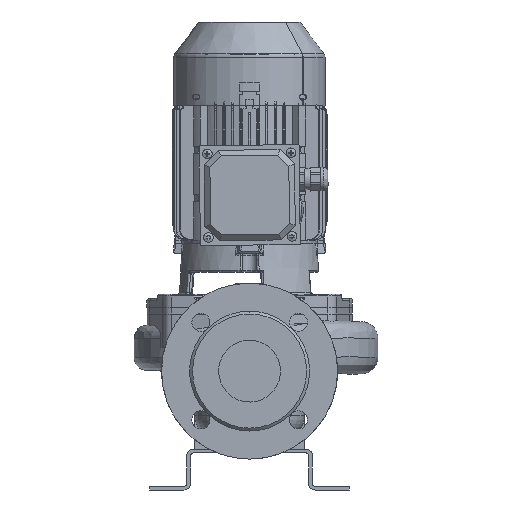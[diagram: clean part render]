
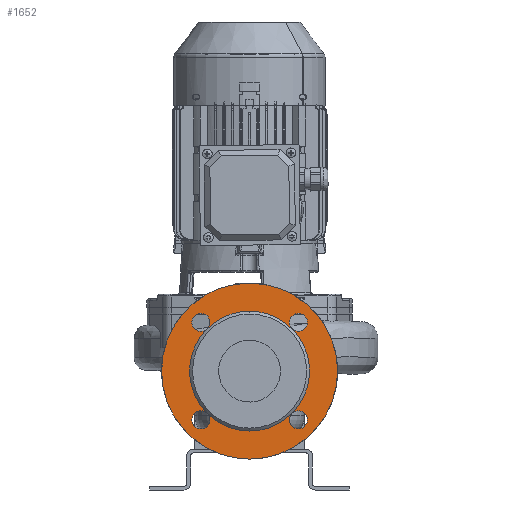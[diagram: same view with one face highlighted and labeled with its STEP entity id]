
A CAD part, front view. The second image highlights one B-rep face of the part: STEP entity #1652.
In plain terms, the highlighted planar face has unit normal (0, -1, 0) as drawn and (0, 1, 0) by its records, which use the part's own axes.
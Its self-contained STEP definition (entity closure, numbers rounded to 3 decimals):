
#1652=ADVANCED_FACE('',(#3272,#3273),#3274,.T.);
#1678=EDGE_CURVE('',#3314,#3315,#3316,.T.);
#1680=EDGE_CURVE('',#3318,#3314,#3319,.T.);
#1682=EDGE_CURVE('',#3321,#3318,#3322,.T.);
#1686=EDGE_CURVE('',#3328,#3329,#3330,.T.);
#1690=EDGE_CURVE('',#3336,#3337,#3338,.T.);
#1694=EDGE_CURVE('',#3344,#3345,#3346,.T.);
#1698=EDGE_CURVE('',#3352,#3353,#3354,.T.);
#1700=EDGE_CURVE('',#3356,#3357,#3358,.T.);
#1892=EDGE_CURVE('',#3357,#3356,#3653,.T.);
#1902=EDGE_CURVE('',#3318,#3352,#3663,.T.);
#1904=EDGE_CURVE('',#3353,#3318,#3665,.T.);
#1906=EDGE_CURVE('',#3314,#3344,#3667,.T.);
#1908=EDGE_CURVE('',#3345,#3314,#3669,.T.);
#1910=EDGE_CURVE('',#3671,#3336,#3672,.T.);
#1912=EDGE_CURVE('',#3337,#3671,#3674,.T.);
#1914=EDGE_CURVE('',#3676,#3328,#3677,.T.);
#1916=EDGE_CURVE('',#3329,#3676,#3679,.T.);
#1918=EDGE_CURVE('',#3315,#3671,#3681,.T.);
#1920=EDGE_CURVE('',#3671,#3676,#3683,.T.);
#1922=EDGE_CURVE('',#3676,#3321,#3685,.T.);
#3272=FACE_OUTER_BOUND('',#9003,.T.);
#3273=FACE_BOUND('',#9004,.T.);
#3274=PLANE('',#9005);
#3314=VERTEX_POINT('',#9643);
#3315=VERTEX_POINT('',#9644);
#3316=CIRCLE('',#9645,63.0);
#3318=VERTEX_POINT('',#9648);
#3319=CIRCLE('',#9649,63.0);
#3321=VERTEX_POINT('',#9652);
#3322=CIRCLE('',#9653,63.0);
#3328=VERTEX_POINT('',#9661);
#3329=VERTEX_POINT('',#9662);
#3330=CIRCLE('',#9663,9.5);
#3336=VERTEX_POINT('',#9671);
#3337=VERTEX_POINT('',#9672);
#3338=CIRCLE('',#9673,9.5);
#3344=VERTEX_POINT('',#9681);
#3345=VERTEX_POINT('',#9682);
#3346=CIRCLE('',#9683,9.5);
#3352=VERTEX_POINT('',#9691);
#3353=VERTEX_POINT('',#9692);
#3354=CIRCLE('',#9693,9.5);
#3356=VERTEX_POINT('',#9696);
#3357=VERTEX_POINT('',#9697);
#3358=CIRCLE('',#9698,92.5);
#3653=CIRCLE('',#10165,92.5);
#3663=CIRCLE('',#10180,9.5);
#3665=CIRCLE('',#10183,9.5);
#3667=CIRCLE('',#10186,9.5);
#3669=CIRCLE('',#10189,9.5);
#3671=VERTEX_POINT('',#10192);
#3672=CIRCLE('',#10193,9.5);
#3674=CIRCLE('',#10196,9.5);
#3676=VERTEX_POINT('',#10199);
#3677=CIRCLE('',#10200,9.5);
#3679=CIRCLE('',#10203,9.5);
#3681=CIRCLE('',#10206,63.0);
#3683=CIRCLE('',#10209,63.0);
#3685=CIRCLE('',#10212,63.0);
#9003=EDGE_LOOP('',(#18054,#18055));
#9004=EDGE_LOOP('',(#18056,#18057,#18058,#18059,#18060,#18061,#18062,#18063,#18064,#18065,#18066,#18067,#18068,#18069,#18070,#18071,#18072,#18073));
#9005=AXIS2_PLACEMENT_3D('',#18074,#18075,#18076);
#9643=CARTESIAN_POINT('',(44.548,165.,20.048));
#9644=CARTESIAN_POINT('',(0.,165.0,38.5));
#9645=AXIS2_PLACEMENT_3D('',#18166,#18167,#18168);
#9648=CARTESIAN_POINT('',(44.548,165.0,-69.048));
#9649=AXIS2_PLACEMENT_3D('',#18169,#18170,#18171);
#9652=CARTESIAN_POINT('',(0.,165.0,-87.5));
#9653=AXIS2_PLACEMENT_3D('',#18172,#18173,#18174);
#9661=CARTESIAN_POINT('',(-56.624,165.0,-67.921));
#9662=CARTESIAN_POINT('',(-45.906,165.0,-83.609));
#9663=AXIS2_PLACEMENT_3D('',#18178,#18179,#18180);
#9671=CARTESIAN_POINT('',(-43.421,165.,32.124));
#9672=CARTESIAN_POINT('',(-59.109,165.,21.406));
#9673=AXIS2_PLACEMENT_3D('',#18184,#18185,#18186);
#9681=CARTESIAN_POINT('',(56.624,165.,18.921));
#9682=CARTESIAN_POINT('',(45.906,165.,34.609));
#9683=AXIS2_PLACEMENT_3D('',#18190,#18191,#18192);
#9691=CARTESIAN_POINT('',(43.421,165.0,-81.124));
#9692=CARTESIAN_POINT('',(59.109,165.0,-70.406));
#9693=AXIS2_PLACEMENT_3D('',#18196,#18197,#18198);
#9696=CARTESIAN_POINT('',(0.,165.0,-117.0));
#9697=CARTESIAN_POINT('',(0.,165.0,68.0));
#9698=AXIS2_PLACEMENT_3D('',#18199,#18200,#18201);
#10165=AXIS2_PLACEMENT_3D('',#18447,#18448,#18449);
#10180=AXIS2_PLACEMENT_3D('',#18462,#18463,#18464);
#10183=AXIS2_PLACEMENT_3D('',#18465,#18466,#18467);
#10186=AXIS2_PLACEMENT_3D('',#18468,#18469,#18470);
#10189=AXIS2_PLACEMENT_3D('',#18471,#18472,#18473);
#10192=CARTESIAN_POINT('',(-44.548,165.,20.048));
#10193=AXIS2_PLACEMENT_3D('',#18474,#18475,#18476);
#10196=AXIS2_PLACEMENT_3D('',#18477,#18478,#18479);
#10199=CARTESIAN_POINT('',(-44.548,165.0,-69.048));
#10200=AXIS2_PLACEMENT_3D('',#18480,#18481,#18482);
#10203=AXIS2_PLACEMENT_3D('',#18483,#18484,#18485);
#10206=AXIS2_PLACEMENT_3D('',#18486,#18487,#18488);
#10209=AXIS2_PLACEMENT_3D('',#18489,#18490,#18491);
#10212=AXIS2_PLACEMENT_3D('',#18492,#18493,#18494);
#18054=ORIENTED_EDGE('',*,*,#1892,.F.);
#18055=ORIENTED_EDGE('',*,*,#1700,.F.);
#18056=ORIENTED_EDGE('',*,*,#1678,.T.);
#18057=ORIENTED_EDGE('',*,*,#1918,.T.);
#18058=ORIENTED_EDGE('',*,*,#1910,.T.);
#18059=ORIENTED_EDGE('',*,*,#1690,.T.);
#18060=ORIENTED_EDGE('',*,*,#1912,.T.);
#18061=ORIENTED_EDGE('',*,*,#1920,.T.);
#18062=ORIENTED_EDGE('',*,*,#1914,.T.);
#18063=ORIENTED_EDGE('',*,*,#1686,.T.);
#18064=ORIENTED_EDGE('',*,*,#1916,.T.);
#18065=ORIENTED_EDGE('',*,*,#1922,.T.);
#18066=ORIENTED_EDGE('',*,*,#1682,.T.);
#18067=ORIENTED_EDGE('',*,*,#1902,.T.);
#18068=ORIENTED_EDGE('',*,*,#1698,.T.);
#18069=ORIENTED_EDGE('',*,*,#1904,.T.);
#18070=ORIENTED_EDGE('',*,*,#1680,.T.);
#18071=ORIENTED_EDGE('',*,*,#1906,.T.);
#18072=ORIENTED_EDGE('',*,*,#1694,.T.);
#18073=ORIENTED_EDGE('',*,*,#1908,.T.);
#18074=CARTESIAN_POINT('',(0.,165.0,-102.25));
#18075=DIRECTION('',(0.0,1.0,0.0));
#18076=DIRECTION('',(0.0,0.0,1.0));
#18166=CARTESIAN_POINT('',(0.,165.0,-24.5));
#18167=DIRECTION('',(0.0,-1.0,0.0));
#18168=DIRECTION('',(0.,0.0,-1.0));
#18169=CARTESIAN_POINT('',(0.,165.0,-24.5));
#18170=DIRECTION('',(0.0,-1.0,0.0));
#18171=DIRECTION('',(0.,0.0,-1.0));
#18172=CARTESIAN_POINT('',(0.,165.0,-24.5));
#18173=DIRECTION('',(0.0,-1.0,0.0));
#18174=DIRECTION('',(0.,0.0,-1.0));
#18178=CARTESIAN_POINT('',(-51.265,165.0,-75.765));
#18179=DIRECTION('',(0.0,-1.0,0.0));
#18180=DIRECTION('',(-0.564,0.0,0.826));
#18184=CARTESIAN_POINT('',(-51.265,165.,26.765));
#18185=DIRECTION('',(0.0,-1.0,0.0));
#18186=DIRECTION('',(0.826,0.0,0.564));
#18190=CARTESIAN_POINT('',(51.265,165.,26.765));
#18191=DIRECTION('',(0.0,-1.0,0.0));
#18192=DIRECTION('',(0.564,0.0,-0.826));
#18196=CARTESIAN_POINT('',(51.265,165.0,-75.765));
#18197=DIRECTION('',(0.0,-1.0,-0.0));
#18198=DIRECTION('',(-0.826,0.0,-0.564));
#18199=CARTESIAN_POINT('',(0.,165.0,-24.5));
#18200=DIRECTION('',(0.0,-1.0,0.0));
#18201=DIRECTION('',(0.,0.0,-1.0));
#18447=CARTESIAN_POINT('',(0.,165.0,-24.5));
#18448=DIRECTION('',(0.0,-1.0,0.0));
#18449=DIRECTION('',(0.,0.0,-1.0));
#18462=CARTESIAN_POINT('',(51.265,165.0,-75.765));
#18463=DIRECTION('',(0.0,-1.0,-0.0));
#18464=DIRECTION('',(-0.826,0.0,-0.564));
#18465=CARTESIAN_POINT('',(51.265,165.0,-75.765));
#18466=DIRECTION('',(0.0,-1.0,-0.0));
#18467=DIRECTION('',(-0.826,0.0,-0.564));
#18468=CARTESIAN_POINT('',(51.265,165.,26.765));
#18469=DIRECTION('',(0.0,-1.0,0.0));
#18470=DIRECTION('',(0.564,0.0,-0.826));
#18471=CARTESIAN_POINT('',(51.265,165.,26.765));
#18472=DIRECTION('',(0.0,-1.0,0.0));
#18473=DIRECTION('',(0.564,0.0,-0.826));
#18474=CARTESIAN_POINT('',(-51.265,165.,26.765));
#18475=DIRECTION('',(0.0,-1.0,0.0));
#18476=DIRECTION('',(0.826,0.0,0.564));
#18477=CARTESIAN_POINT('',(-51.265,165.,26.765));
#18478=DIRECTION('',(0.0,-1.0,0.0));
#18479=DIRECTION('',(0.826,0.0,0.564));
#18480=CARTESIAN_POINT('',(-51.265,165.0,-75.765));
#18481=DIRECTION('',(0.0,-1.0,0.0));
#18482=DIRECTION('',(-0.564,0.0,0.826));
#18483=CARTESIAN_POINT('',(-51.265,165.0,-75.765));
#18484=DIRECTION('',(0.0,-1.0,0.0));
#18485=DIRECTION('',(-0.564,0.0,0.826));
#18486=CARTESIAN_POINT('',(0.,165.0,-24.5));
#18487=DIRECTION('',(0.0,-1.0,0.0));
#18488=DIRECTION('',(0.,0.0,-1.0));
#18489=CARTESIAN_POINT('',(0.,165.0,-24.5));
#18490=DIRECTION('',(0.0,-1.0,0.0));
#18491=DIRECTION('',(0.,0.0,-1.0));
#18492=CARTESIAN_POINT('',(0.,165.0,-24.5));
#18493=DIRECTION('',(0.0,-1.0,0.0));
#18494=DIRECTION('',(0.,0.0,-1.0));
